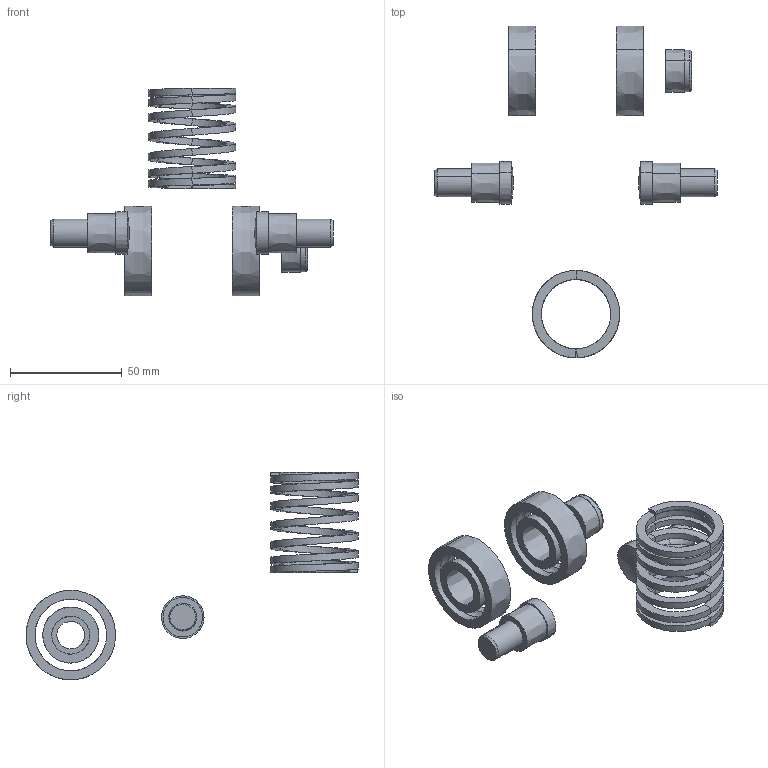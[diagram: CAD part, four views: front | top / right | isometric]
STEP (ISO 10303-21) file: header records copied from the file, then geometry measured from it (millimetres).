
FILE_DESCRIPTION (( 'STEP AP214' ), '1' );
FILE_NAME ('KTU-150WK-GS-40..STEP', '2018-08-30T07:48:26', ( '' ), ( '' ), 'SwSTEP 2.0', 'SolidWorks 2010', '' );
FILE_SCHEMA (( 'AUTOMOTIVE_DESIGN' ));
Length unit declared in the file: millimetre
Products named in the file (1): KTU-150WK-GS-40.
Bounding box: 126 x 148.26 x 92.76 mm (x, y, z)
Volume: 40204.6 mm3; surface area: 28975.8 mm2
Topology: 8 solids, 8 shells, 141 faces, 316 edges, 192 vertices
Faces by surface type: bspline 120, plane 21
Entity records: 31699 total; most frequent: CARTESIAN_POINT 28471, ORIENTED_EDGE 624, EDGE_CURVE 312, B_SPLINE_CURVE_WITH_KNOTS 236, VERTEX_POINT 192, EDGE_LOOP 156, FACE_OUTER_BOUND 141, ADVANCED_FACE 141
